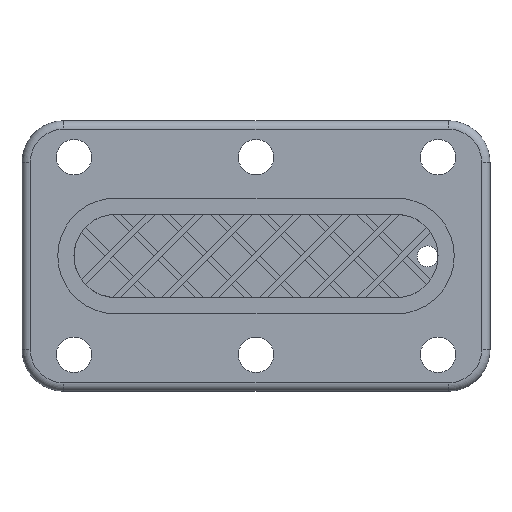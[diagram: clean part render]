
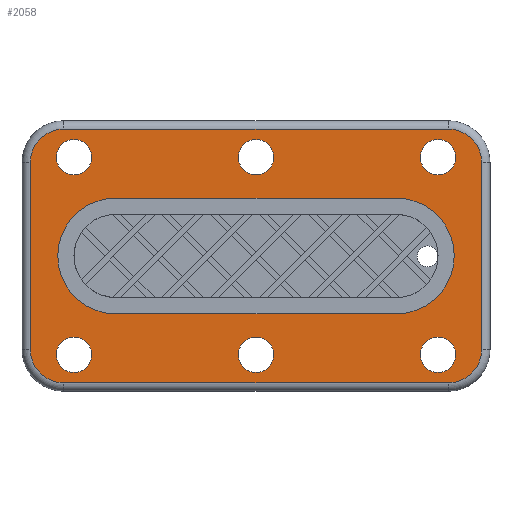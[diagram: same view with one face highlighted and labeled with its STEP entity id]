
A CAD part, top view. The second image highlights one B-rep face of the part: STEP entity #2058.
In plain terms, the highlighted planar face has unit normal (0, 0, 1).
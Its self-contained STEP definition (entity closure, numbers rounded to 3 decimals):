
#38=FACE_BOUND('',#727,.T.);
#39=FACE_BOUND('',#728,.T.);
#40=FACE_BOUND('',#729,.T.);
#41=FACE_BOUND('',#730,.T.);
#42=FACE_BOUND('',#731,.T.);
#43=FACE_BOUND('',#732,.T.);
#44=FACE_BOUND('',#733,.T.);
#65=PLANE('',#2277);
#149=LINE('',#3151,#360);
#151=LINE('',#3163,#362);
#153=LINE('',#3174,#364);
#154=LINE('',#3180,#365);
#156=LINE('',#3200,#367);
#157=LINE('',#3203,#368);
#360=VECTOR('',#2557,10.);
#362=VECTOR('',#2571,10.);
#364=VECTOR('',#2585,10.);
#365=VECTOR('',#2594,10.);
#367=VECTOR('',#2614,10.);
#368=VECTOR('',#2617,10.);
#608=FACE_OUTER_BOUND('',#726,.T.);
#726=EDGE_LOOP('',(#1554,#1555,#1556,#1557,#1558,#1559,#1560,#1561));
#727=EDGE_LOOP('',(#1562));
#728=EDGE_LOOP('',(#1563));
#729=EDGE_LOOP('',(#1564));
#730=EDGE_LOOP('',(#1565));
#731=EDGE_LOOP('',(#1566));
#732=EDGE_LOOP('',(#1567));
#733=EDGE_LOOP('',(#1568,#1569,#1570,#1571));
#869=CIRCLE('',#2256,3.2);
#874=CIRCLE('',#2263,3.2);
#878=CIRCLE('',#2269,3.2);
#881=CIRCLE('',#2274,3.2);
#882=CIRCLE('',#2278,1.7);
#883=CIRCLE('',#2279,1.7);
#884=CIRCLE('',#2280,1.7);
#885=CIRCLE('',#2281,1.7);
#886=CIRCLE('',#2282,1.7);
#887=CIRCLE('',#2283,1.7);
#888=CIRCLE('',#2284,5.56);
#889=CIRCLE('',#2285,5.56);
#961=VERTEX_POINT('',#3143);
#962=VERTEX_POINT('',#3145);
#963=VERTEX_POINT('',#3149);
#964=VERTEX_POINT('',#3153);
#966=VERTEX_POINT('',#3159);
#968=VERTEX_POINT('',#3165);
#970=VERTEX_POINT('',#3171);
#971=VERTEX_POINT('',#3176);
#972=VERTEX_POINT('',#3184);
#973=VERTEX_POINT('',#3186);
#974=VERTEX_POINT('',#3188);
#975=VERTEX_POINT('',#3190);
#976=VERTEX_POINT('',#3192);
#977=VERTEX_POINT('',#3194);
#978=VERTEX_POINT('',#3196);
#979=VERTEX_POINT('',#3197);
#980=VERTEX_POINT('',#3199);
#981=VERTEX_POINT('',#3201);
#1177=EDGE_CURVE('',#961,#962,#869,.T.);
#1180=EDGE_CURVE('',#962,#963,#149,.T.);
#1183=EDGE_CURVE('',#963,#964,#874,.T.);
#1186=EDGE_CURVE('',#964,#966,#151,.T.);
#1189=EDGE_CURVE('',#966,#968,#878,.T.);
#1192=EDGE_CURVE('',#968,#970,#153,.T.);
#1194=EDGE_CURVE('',#970,#971,#881,.T.);
#1195=EDGE_CURVE('',#971,#961,#154,.T.);
#1197=EDGE_CURVE('',#972,#972,#882,.T.);
#1198=EDGE_CURVE('',#973,#973,#883,.T.);
#1199=EDGE_CURVE('',#974,#974,#884,.T.);
#1200=EDGE_CURVE('',#975,#975,#885,.T.);
#1201=EDGE_CURVE('',#976,#976,#886,.T.);
#1202=EDGE_CURVE('',#977,#977,#887,.T.);
#1203=EDGE_CURVE('',#978,#979,#888,.T.);
#1204=EDGE_CURVE('',#979,#980,#156,.T.);
#1205=EDGE_CURVE('',#980,#981,#889,.T.);
#1206=EDGE_CURVE('',#981,#978,#157,.T.);
#1554=ORIENTED_EDGE('',*,*,#1177,.F.);
#1555=ORIENTED_EDGE('',*,*,#1195,.F.);
#1556=ORIENTED_EDGE('',*,*,#1194,.F.);
#1557=ORIENTED_EDGE('',*,*,#1192,.F.);
#1558=ORIENTED_EDGE('',*,*,#1189,.F.);
#1559=ORIENTED_EDGE('',*,*,#1186,.F.);
#1560=ORIENTED_EDGE('',*,*,#1183,.F.);
#1561=ORIENTED_EDGE('',*,*,#1180,.F.);
#1562=ORIENTED_EDGE('',*,*,#1197,.T.);
#1563=ORIENTED_EDGE('',*,*,#1198,.T.);
#1564=ORIENTED_EDGE('',*,*,#1199,.T.);
#1565=ORIENTED_EDGE('',*,*,#1200,.T.);
#1566=ORIENTED_EDGE('',*,*,#1201,.T.);
#1567=ORIENTED_EDGE('',*,*,#1202,.T.);
#1568=ORIENTED_EDGE('',*,*,#1203,.T.);
#1569=ORIENTED_EDGE('',*,*,#1204,.T.);
#1570=ORIENTED_EDGE('',*,*,#1205,.T.);
#1571=ORIENTED_EDGE('',*,*,#1206,.T.);
#2058=ADVANCED_FACE('',(#608,#38,#39,#40,#41,#42,#43,#44),#65,.T.);
#2256=AXIS2_PLACEMENT_3D('',#3146,#2549,#2550);
#2263=AXIS2_PLACEMENT_3D('',#3157,#2564,#2565);
#2269=AXIS2_PLACEMENT_3D('',#3169,#2578,#2579);
#2274=AXIS2_PLACEMENT_3D('',#3178,#2590,#2591);
#2277=AXIS2_PLACEMENT_3D('',#3183,#2598,#2599);
#2278=AXIS2_PLACEMENT_3D('',#3185,#2600,#2601);
#2279=AXIS2_PLACEMENT_3D('',#3187,#2602,#2603);
#2280=AXIS2_PLACEMENT_3D('',#3189,#2604,#2605);
#2281=AXIS2_PLACEMENT_3D('',#3191,#2606,#2607);
#2282=AXIS2_PLACEMENT_3D('',#3193,#2608,#2609);
#2283=AXIS2_PLACEMENT_3D('',#3195,#2610,#2611);
#2284=AXIS2_PLACEMENT_3D('',#3198,#2612,#2613);
#2285=AXIS2_PLACEMENT_3D('',#3202,#2615,#2616);
#2549=DIRECTION('center_axis',(0.,0.,
-1.));
#2550=DIRECTION('ref_axis',(-0.707,-0.707,0.));
#2557=DIRECTION('',(0.,1.,0.));
#2564=DIRECTION('center_axis',(0.,0.,
-1.));
#2565=DIRECTION('ref_axis',(-0.707,0.707,0.));
#2571=DIRECTION('',(1.,0.,0.));
#2578=DIRECTION('center_axis',(0.,0.,
-1.));
#2579=DIRECTION('ref_axis',(0.707,0.707,0.));
#2585=DIRECTION('',(0.,-1.,0.));
#2590=DIRECTION('center_axis',(0.,0.,
-1.));
#2591=DIRECTION('ref_axis',(0.707,-0.707,0.));
#2594=DIRECTION('',(-1.,0.,0.));
#2598=DIRECTION('center_axis',(0.,0.,
1.));
#2599=DIRECTION('ref_axis',(1.,0.,0.));
#2600=DIRECTION('center_axis',(0.,0.,
-1.));
#2601=DIRECTION('ref_axis',(1.,0.,0.));
#2602=DIRECTION('center_axis',(0.,0.,
-1.));
#2603=DIRECTION('ref_axis',(1.,0.,0.));
#2604=DIRECTION('center_axis',(0.,0.,
-1.));
#2605=DIRECTION('ref_axis',(1.,0.,0.));
#2606=DIRECTION('center_axis',(0.,0.,
-1.));
#2607=DIRECTION('ref_axis',(1.,0.,0.));
#2608=DIRECTION('center_axis',(0.,0.,
-1.));
#2609=DIRECTION('ref_axis',(1.,0.,0.));
#2610=DIRECTION('center_axis',(0.,0.,
-1.));
#2611=DIRECTION('ref_axis',(1.,0.,0.));
#2612=DIRECTION('center_axis',(0.,0.,
-1.));
#2613=DIRECTION('ref_axis',(0.,-1.,0.));
#2614=DIRECTION('',(-1.,0.,0.));
#2615=DIRECTION('center_axis',(0.,0.,
-1.));
#2616=DIRECTION('ref_axis',(0.,1.,0.));
#2617=DIRECTION('',(1.,0.,0.));
#3143=CARTESIAN_POINT('',(4.,0.8,3.));
#3145=CARTESIAN_POINT('',(0.8,4.,3.));
#3146=CARTESIAN_POINT('Origin',(4.,4.,3.));
#3149=CARTESIAN_POINT('',(0.8,22.,3.));
#3151=CARTESIAN_POINT('',(0.8,6.5,3.));
#3153=CARTESIAN_POINT('',(4.,25.2,3.));
#3157=CARTESIAN_POINT('Origin',(4.,22.,3.));
#3159=CARTESIAN_POINT('',(41.,25.2,3.));
#3163=CARTESIAN_POINT('',(11.25,25.2,3.));
#3165=CARTESIAN_POINT('',(44.2,22.,3.));
#3169=CARTESIAN_POINT('Origin',(41.,22.,3.));
#3171=CARTESIAN_POINT('',(44.2,4.,3.));
#3174=CARTESIAN_POINT('',(44.2,19.5,3.));
#3176=CARTESIAN_POINT('',(41.,0.8,3.));
#3178=CARTESIAN_POINT('Origin',(41.,4.,3.));
#3180=CARTESIAN_POINT('',(33.75,0.8,3.));
#3183=CARTESIAN_POINT('Origin',(22.5,13.,3.));
#3184=CARTESIAN_POINT('',(38.3,22.5,3.));
#3185=CARTESIAN_POINT('Origin',(40.,22.5,3.));
#3186=CARTESIAN_POINT('',(20.8,3.5,3.));
#3187=CARTESIAN_POINT('Origin',(22.5,3.5,3.));
#3188=CARTESIAN_POINT('',(20.8,22.5,3.));
#3189=CARTESIAN_POINT('Origin',(22.5,22.5,3.));
#3190=CARTESIAN_POINT('',(3.3,22.5,3.));
#3191=CARTESIAN_POINT('Origin',(5.,22.5,3.));
#3192=CARTESIAN_POINT('',(3.3,3.5,3.));
#3193=CARTESIAN_POINT('Origin',(5.,3.5,3.));
#3194=CARTESIAN_POINT('',(38.3,3.5,3.));
#3195=CARTESIAN_POINT('Origin',(40.,3.5,3.));
#3196=CARTESIAN_POINT('',(36.,18.56,3.));
#3197=CARTESIAN_POINT('',(36.,7.44,3.));
#3198=CARTESIAN_POINT('Origin',(36.,13.,3.));
#3199=CARTESIAN_POINT('',(9.,7.44,3.));
#3200=CARTESIAN_POINT('',(15.75,7.44,3.));
#3201=CARTESIAN_POINT('',(9.,18.56,3.));
#3202=CARTESIAN_POINT('Origin',(9.,13.,3.));
#3203=CARTESIAN_POINT('',(29.25,18.56,3.));
